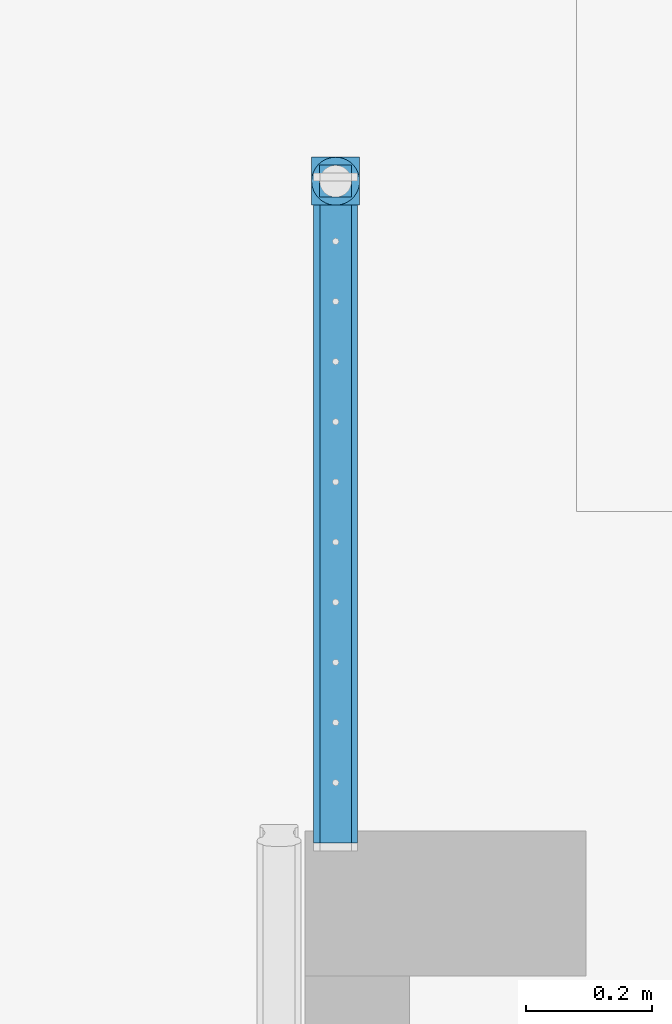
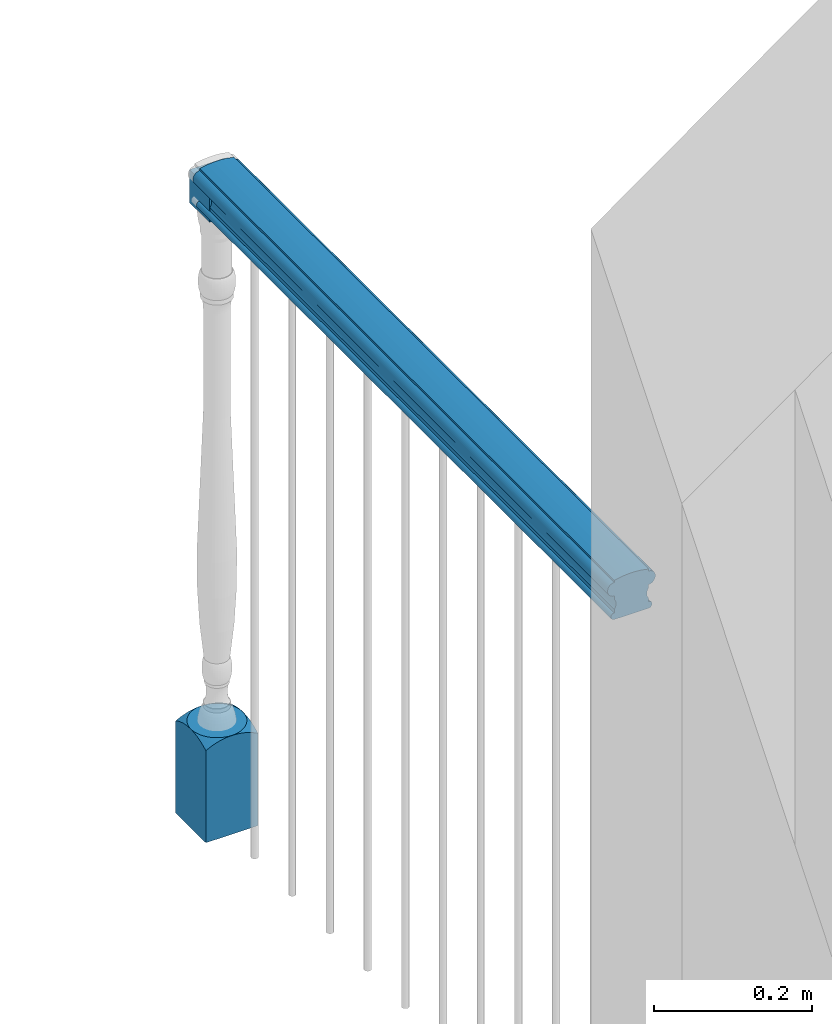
# One storey, part 18 of 77: 2 building element parts, 1 element without a shape of its own.
"""IFC2X3 building model written with IfcOpenShell, lengths in inches."""

from ifc_helpers import new_model, entity, si_unit, converted_unit, derived_unit, money_unit, direction, frame, origin_with_axes, place, context, subcontext, project, spatial, faceted_brep, material, type_object, element, aggregate, save


model = new_model("IFC2X3")

# Units and contexts
model_context = context("Model", 3, precision=0.000393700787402, world=origin_with_axes(), true_north=direction((0.0, 1.0)))
body_context = subcontext(model_context, "Body", "Model", "MODEL_VIEW")
ifc_project = project(units=[converted_unit("LENGTHUNIT", "INCH", entity("IfcPositiveLengthMeasure", 0.0254), si_unit("LENGTHUNIT", "METRE"), dimensions=[1, 0, 0, 0, 0, 0, 0]), converted_unit("AREAUNIT", "SQUARE_FOOT", entity("IfcPositiveLengthMeasure", 0.09290304), si_unit("AREAUNIT", "SQUARE_METRE"), dimensions=[2, 0, 0, 0, 0, 0, 0]), si_unit("PLANEANGLEUNIT", "RADIAN"), si_unit("SOLIDANGLEUNIT", "STERADIAN"), money_unit("USD"), converted_unit("TIMEUNIT", "Year", entity("IfcTimeMeasure", 31556926.0), si_unit("TIMEUNIT", "SECOND"), dimensions=[0, 0, 1, 0, 0, 0, 0]), si_unit("MASSUNIT", "GRAM", prefix="KILO"), si_unit("THERMODYNAMICTEMPERATUREUNIT", "DEGREE_CELSIUS"), si_unit("LUMINOUSINTENSITYUNIT", "LUMEN"), si_unit("ENERGYUNIT", "JOULE", prefix="MEGA"), derived_unit("THERMALCONDUCTANCEUNIT", [(si_unit("POWERUNIT", "WATT"), 1), (si_unit("LENGTHUNIT", "METRE"), -1), (si_unit("THERMODYNAMICTEMPERATUREUNIT", "KELVIN"), -1)]), derived_unit("SPECIFICHEATCAPACITYUNIT", [(si_unit("ENERGYUNIT", "JOULE"), 1), (si_unit("MASSUNIT", "GRAM", prefix="KILO"), -1), (si_unit("THERMODYNAMICTEMPERATUREUNIT", "KELVIN"), -1)]), derived_unit("MASSDENSITYUNIT", [(si_unit("MASSUNIT", "GRAM", prefix="KILO"), 1), (si_unit("VOLUMEUNIT", "CUBIC_METRE"), -1)])], contexts=[model_context])

# Site, building, storey
site_placement = place(None, origin_with_axes())
site = spatial("IfcSite", under=ifc_project, at=site_placement, Name="Site", CompositionType="ELEMENT")
building_placement = place(site_placement, origin_with_axes())
building = spatial("IfcBuilding", under=site, at=building_placement, Name="Building", CompositionType="ELEMENT")
storey_placement = place(building_placement, frame((0.0, 0.0, 127.952755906), z_axis=(0.0, 0.0, 1.0), x_axis=(1.0, 0.0, 0.0)))
storey = spatial("IfcBuildingStorey", under=building, at=storey_placement, Name="Second Floor", CompositionType="ELEMENT", Elevation=127.953)

# Railing, building element parts
railing_type = type_object("IfcRailingType", Name="Railing Type", PredefinedType="NOTDEFINED")
railing_placement = place(storey_placement, frame((726.989643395, 142.006727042, 0.0), z_axis=(0.0, 0.0, 1.0), x_axis=(-1.0, 0.0, 0.0)))
railing = element("IfcRailing", 1, at=railing_placement, inside=storey, type_object=railing_type, Name="RAILING - 001", PredefinedType="NOTDEFINED")
ifc_material = material(Name="Wood - Structural")
building_element_part_1_placement = place(railing_placement, origin_with_axes())
building_element_part_1 = element("IfcBuildingElementPart", 2, at=building_element_part_1_placement, material=ifc_material, Name="Wood - Structural", context=body_context, shape_type="Brep", body=[
    faceted_brep([(-0.470433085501, 1.49807085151, 5.59807625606), (-0.472538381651, 1.5, 5.59807625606), (-0.709854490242, 1.5, 5.72121779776), (-0.73188737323, 1.47374223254, 5.74751952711), (-0.608147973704, 1.3603559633, 5.74751952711), (-0.468503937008, 1.49596555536, 5.59807625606), (-0.468503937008, 1.5, 5.59807625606), (-3.46446949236, 1.5, 5.59807625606), (-3.22715338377, 1.5, 5.72121779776), (-3.170900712, 1.5, 5.74751952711), (-3.01881524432, 1.5, 5.80655808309), (-2.83452934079, 1.5, 5.86969880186), (-2.71553065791, 1.5, 5.90473755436), (-2.66796542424, 1.5, 5.91618175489), (-2.51445928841, 1.5, 5.94679121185), (-2.37042772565, 1.5, 5.96935903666), (-2.23299440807, 1.5, 5.98485858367), (-2.0997369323, 1.5, 5.9939217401), (-1.96850393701, 1.5, 5.99690446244), (-1.83727094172, 1.5, 5.9939217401), (-1.70401346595, 1.5, 5.98485858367), (-1.56658014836, 1.5, 5.96935903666), (-1.42254858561, 1.5, 5.94679121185), (-1.26904244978, 1.5, 5.91618175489), (-1.22147721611, 1.5, 5.90473755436), (-1.10247853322, 1.5, 5.86969880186), (-0.918192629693, 1.5, 5.80655808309), (-0.766107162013, 1.5, 5.74751952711), (-0.468503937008, 1.5, 0.0), (-3.46850393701, 1.5, 0.0), (-3.46850393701, 1.5, 5.59807625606), (-0.782649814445, 1.18585412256, 5.90473755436), (-0.890516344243, 1.28469558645, 5.90473755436), (-0.494761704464, 1.23661656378, 5.74751952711), (-0.468503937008, 1.25864944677, 5.72121779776), (-0.468503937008, 1.20239677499, 5.74751952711), (-0.468503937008, 1.05031130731, 5.80655808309), (-0.468503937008, 0.866025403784, 5.86969880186), (-0.468503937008, 0.747026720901, 5.90473755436), (-0.468503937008, 0.699461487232, 5.91618175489), (-0.468503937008, 0.545955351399, 5.94679121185), (-0.468503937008, 0.401923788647, 5.96935903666), (-0.468503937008, 0.264490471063, 5.98485858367), (-0.468503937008, 0.131232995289, 5.9939217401), (-0.468503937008, 0.0, 5.99690446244), (-0.468503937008, -0.131232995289, 5.9939217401), (-0.468503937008, -0.264490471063, 5.98485858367), (-0.468503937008, -0.401923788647, 5.96935903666), (-0.468503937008, -0.545955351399, 5.94679121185), (-0.468503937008, -0.699461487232, 5.91618175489), (-0.468503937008, -0.747026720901, 5.90473755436), (-0.468503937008, -0.866025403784, 5.86969880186), (-0.468503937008, -1.05031130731, 5.80655808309), (-0.468503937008, -1.20239677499, 5.74751952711), (-0.468503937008, -1.25864944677, 5.72121779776), (-0.468503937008, -1.49596555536, 5.59807625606), (-0.468503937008, -1.5, 5.59807625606), (-0.468503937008, -1.5, 0.0), (-3.46657478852, 1.49807085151, 5.59807625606), (-3.32885990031, 1.3603559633, 5.74751952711), (-3.20512050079, 1.47374223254, 5.74751952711), (-2.93042086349, 1.3737597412, 5.90473755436), (-3.04649152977, 1.28469558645, 5.90473755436), (-2.80702942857, 1.45236875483, 5.90473755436), (-2.59991820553, 1.35407226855, 6.0000000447), (-2.71553065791, 1.29388823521, 6.0000000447), (-2.47950030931, 1.40395099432, 6.0000000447), (-2.35519342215, 1.44314480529, 6.0000000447), (-2.22794359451, 1.4713554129, 6.0000000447), (-2.09871927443, 1.48836811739, 6.0000000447), (-1.96850393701, 1.4940534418, 6.0000000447), (-1.83828859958, 1.48836811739, 6.0000000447), (-1.7090642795, 1.4713554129, 6.0000000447), (-1.58181445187, 1.44314480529, 6.0000000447), (-1.45750756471, 1.40395099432, 6.0000000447), (-1.33708966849, 1.35407226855, 6.0000000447), (-1.12997844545, 1.45236875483, 5.90473755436), (-1.22147721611, 1.29388823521, 6.0000000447), (-1.00658701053, 1.3737597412, 5.90473755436), (-3.46850393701, -1.5, 0.0), (-3.46850393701, -1.49596555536, 5.59807625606), (-3.46850393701, -1.25864944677, 5.72121779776), (-3.46850393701, -1.20239677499, 5.74751952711), (-3.46850393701, -1.05031130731, 5.80655808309), (-3.46850393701, -0.866025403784, 5.86969880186), (-3.46850393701, -0.747026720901, 5.90473755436), (-3.46850393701, -0.699461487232, 5.91618175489), (-3.46850393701, -0.545955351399, 5.94679121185), (-3.46850393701, -0.401923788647, 5.96935903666), (-3.46850393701, -0.264490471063, 5.98485858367), (-3.46850393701, -0.131232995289, 5.9939217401), (-3.46850393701, 0.0, 5.99690446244), (-3.46850393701, 0.131232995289, 5.9939217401), (-3.46850393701, 0.264490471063, 5.98485858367), (-3.46850393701, 0.401923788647, 5.96935903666), (-3.46850393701, 0.545955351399, 5.94679121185), (-3.46850393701, 0.699461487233, 5.91618175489), (-3.46850393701, 0.747026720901, 5.90473755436), (-3.46850393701, 0.866025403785, 5.86969880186), (-3.46850393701, 1.05031130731, 5.80655808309), (-3.46850393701, 1.20239677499, 5.74751952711), (-3.46850393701, 1.25864944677, 5.72121779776), (-3.46850393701, 1.49596555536, 5.59807625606), (-3.46850393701, -1.5, 5.59807625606), (-0.683808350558, 1.07798759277, 5.90473755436), (-1.00814489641, 1.14451133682, 6.0000000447), (-0.912048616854, 1.05645532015, 6.0000000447), (-0.594744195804, 0.96191692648, 5.90473755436), (-0.51613518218, 0.838525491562, 5.90473755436), (-0.614431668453, 0.631414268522, 6.0000000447), (-0.674615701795, 0.747026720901, 6.0000000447), (-0.564552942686, 0.510996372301, 6.0000000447), (-0.525359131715, 0.386689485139, 6.0000000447), (-0.497148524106, 0.259439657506, 6.0000000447), (-0.480135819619, 0.130215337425, 6.0000000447), (-0.474450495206, 0.0, 6.0000000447), (-0.480135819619, -0.130215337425, 6.0000000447), (-0.497148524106, -0.259439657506, 6.0000000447), (-0.525359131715, -0.386689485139, 6.0000000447), (-0.564552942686, -0.510996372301, 6.0000000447), (-0.614431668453, -0.631414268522, 6.0000000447), (-0.51613518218, -0.838525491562, 5.90473755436), (-0.674615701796, -0.747026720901, 6.0000000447), (-0.594744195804, -0.96191692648, 5.90473755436), (-0.494761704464, -1.23661656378, 5.74751952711), (-0.683808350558, -1.07798759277, 5.90473755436), (-0.470433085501, -1.49807085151, 5.59807625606), (-0.608147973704, -1.3603559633, 5.74751952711), (-0.472538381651, -1.5, 5.59807625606), (-0.709854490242, -1.5, 5.72121779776), (-0.766107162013, -1.5, 5.74751952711), (-0.918192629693, -1.5, 5.80655808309), (-1.10247853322, -1.5, 5.86969880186), (-1.22147721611, -1.5, 5.90473755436), (-1.26904244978, -1.5, 5.91618175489), (-1.42254858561, -1.5, 5.94679121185), (-1.56658014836, -1.5, 5.96935903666), (-1.70401346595, -1.5, 5.98485858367), (-1.83727094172, -1.5, 5.9939217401), (-1.96850393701, -1.5, 5.99690446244), (-2.0997369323, -1.5, 5.9939217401), (-2.23299440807, -1.5, 5.98485858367), (-2.37042772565, -1.5, 5.96935903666), (-2.51445928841, -1.5, 5.94679121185), (-2.66796542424, -1.5, 5.91618175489), (-2.71553065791, -1.5, 5.90473755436), (-2.83452934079, -1.5, 5.86969880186), (-3.01881524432, -1.5, 5.80655808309), (-3.170900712, -1.5, 5.74751952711), (-3.22715338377, -1.5, 5.72121779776), (-3.46446949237, -1.5, 5.59807625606), (-3.44224616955, 1.23661656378, 5.74751952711), (-3.15435805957, 1.18585412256, 5.90473755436), (-2.92886297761, 1.14451133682, 6.0000000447), (-2.82545778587, 1.22385693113, 6.0000000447), (-3.02495925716, 1.05645532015, 6.0000000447), (-3.11301527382, 0.9603590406, 6.0000000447), (-3.19236086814, 0.856953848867, 6.0000000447), (-3.26239217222, 0.747026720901, 6.0000000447), (-3.32257620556, 0.631414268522, 6.0000000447), (-3.37245493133, 0.510996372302, 6.0000000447), (-3.4116487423, 0.386689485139, 6.0000000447), (-3.43985934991, 0.259439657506, 6.0000000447), (-3.4568720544, 0.130215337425, 6.0000000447), (-3.46255737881, 0.0, 6.0000000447), (-3.4568720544, -0.130215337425, 6.0000000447), (-3.43985934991, -0.259439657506, 6.0000000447), (-3.4116487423, -0.386689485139, 6.0000000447), (-3.37245493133, -0.510996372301, 6.0000000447), (-3.32257620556, -0.631414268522, 6.0000000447), (-3.26239217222, -0.747026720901, 6.0000000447), (-3.19236086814, -0.856953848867, 6.0000000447), (-3.11301527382, -0.9603590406, 6.0000000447), (-3.02495925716, -1.05645532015, 6.0000000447), (-2.92886297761, -1.14451133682, 6.0000000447), (-2.82545778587, -1.22385693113, 6.0000000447), (-2.71553065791, -1.29388823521, 6.0000000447), (-2.59991820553, -1.35407226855, 6.0000000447), (-2.47950030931, -1.40395099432, 6.0000000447), (-2.35519342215, -1.44314480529, 6.0000000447), (-2.22794359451, -1.4713554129, 6.0000000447), (-2.09871927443, -1.48836811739, 6.0000000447), (-1.96850393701, -1.4940534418, 6.0000000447), (-1.83828859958, -1.48836811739, 6.0000000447), (-1.7090642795, -1.4713554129, 6.0000000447), (-1.58181445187, -1.44314480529, 6.0000000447), (-1.45750756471, -1.40395099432, 6.0000000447), (-1.33708966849, -1.35407226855, 6.0000000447), (-1.22147721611, -1.29388823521, 6.0000000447), (-1.11155008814, -1.22385693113, 6.0000000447), (-1.00814489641, -1.14451133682, 6.0000000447), (-0.912048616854, -1.05645532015, 6.0000000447), (-0.823992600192, -0.9603590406, 6.0000000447), (-0.744647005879, -0.856953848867, 6.0000000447), (-0.744647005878, 0.856953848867, 6.0000000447), (-0.823992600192, 0.9603590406, 6.0000000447), (-1.11155008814, 1.22385693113, 6.0000000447), (-3.46657478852, -1.49807085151, 5.59807625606), (-3.32885990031, -1.3603559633, 5.74751952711), (-3.44224616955, -1.23661656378, 5.74751952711), (-3.34226367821, -0.96191692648, 5.90473755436), (-3.25319952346, -1.07798759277, 5.90473755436), (-3.42087269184, -0.838525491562, 5.90473755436), (-3.42087269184, 0.838525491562, 5.90473755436), (-3.34226367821, 0.96191692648, 5.90473755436), (-3.25319952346, 1.07798759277, 5.90473755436), (-0.782649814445, -1.18585412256, 5.90473755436), (-0.73188737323, -1.47374223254, 5.74751952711), (-1.00658701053, -1.3737597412, 5.90473755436), (-0.890516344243, -1.28469558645, 5.90473755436), (-1.12997844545, -1.45236875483, 5.90473755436), (-2.80702942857, -1.45236875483, 5.90473755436), (-2.93042086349, -1.3737597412, 5.90473755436), (-3.20512050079, -1.47374223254, 5.74751952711), (-3.04649152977, -1.28469558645, 5.90473755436), (-3.15435805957, -1.18585412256, 5.90473755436)], [[[0, 1, 2, 3, 4]], [[1, 0, 5, 6]], [[7, 8, 9, 10, 11, 12, 13, 14, 15, 16, 17, 18, 19, 20, 21, 22, 23, 24, 25, 26, 27, 2, 1, 6, 28, 29, 30]], [[3, 2, 27]], [[31, 4, 3, 32]], [[5, 0, 4, 33, 34]], [[5, 34, 35, 36, 37, 38, 39, 40, 41, 42, 43, 44, 45, 46, 47, 48, 49, 50, 51, 52, 53, 54, 55, 56, 57, 28, 6]], [[7, 58, 59, 60, 8]], [[60, 9, 8]], [[61, 10, 9, 60, 62]], [[63, 11, 10, 61]], [[63, 12, 11]], [[64, 13, 12, 63, 65]], [[66, 14, 13, 64]], [[67, 15, 14, 66]], [[68, 16, 15, 67]], [[69, 17, 16, 68]], [[70, 18, 17, 69]], [[71, 19, 18, 70]], [[72, 20, 19, 71]], [[73, 21, 20, 72]], [[74, 22, 21, 73]], [[75, 23, 22, 74]], [[76, 24, 23, 75, 77]], [[76, 25, 24]], [[78, 26, 25, 76]], [[3, 27, 26, 78, 32]], [[79, 29, 28, 57]], [[80, 81, 82, 83, 84, 85, 86, 87, 88, 89, 90, 91, 92, 93, 94, 95, 96, 97, 98, 99, 100, 101, 102, 30, 29, 79, 103]], [[58, 7, 30, 102]], [[104, 33, 4, 31]], [[32, 105, 106, 31]], [[33, 35, 34]], [[107, 36, 35, 33, 104]], [[108, 37, 36, 107]], [[108, 38, 37]], [[109, 39, 38, 108, 110]], [[111, 40, 39, 109]], [[112, 41, 40, 111]], [[113, 42, 41, 112]], [[114, 43, 42, 113]], [[115, 44, 43, 114]], [[116, 45, 44, 115]], [[117, 46, 45, 116]], [[118, 47, 46, 117]], [[119, 48, 47, 118]], [[120, 49, 48, 119]], [[121, 50, 49, 120, 122]], [[121, 51, 50]], [[123, 52, 51, 121]], [[124, 53, 52, 123, 125]], [[124, 54, 53]], [[126, 55, 54, 124, 127]], [[55, 126, 128, 56]], [[128, 129, 130, 131, 132, 133, 134, 135, 136, 137, 138, 139, 140, 141, 142, 143, 144, 145, 146, 147, 148, 149, 150, 103, 79, 57, 56]], [[58, 102, 101, 151, 59]], [[62, 60, 59, 152]], [[62, 153, 154, 61]], [[61, 154, 65, 63]], [[72, 71, 70, 69, 68, 67, 66, 64, 65, 154, 153, 155, 156, 157, 158, 159, 160, 161, 162, 163, 164, 165, 166, 167, 168, 169, 170, 171, 172, 173, 174, 175, 176, 177, 178, 179, 180, 181, 182, 183, 184, 185, 186, 187, 188, 189, 190, 191, 192, 193, 122, 120, 119, 118, 117, 116, 115, 114, 113, 112, 111, 109, 110, 194, 195, 106, 105, 196, 77, 75, 74, 73]], [[76, 77, 196, 78]], [[78, 196, 105, 32]], [[80, 197, 198, 199, 81]], [[199, 82, 81]], [[200, 83, 82, 199, 201]], [[202, 84, 83, 200]], [[202, 85, 84]], [[169, 86, 85, 202, 170]], [[168, 87, 86, 169]], [[167, 88, 87, 168]], [[166, 89, 88, 167]], [[165, 90, 89, 166]], [[164, 91, 90, 165]], [[163, 92, 91, 164]], [[162, 93, 92, 163]], [[161, 94, 93, 162]], [[160, 95, 94, 161]], [[159, 96, 95, 160]], [[203, 97, 96, 159, 158]], [[203, 98, 97]], [[204, 99, 98, 203]], [[151, 100, 99, 204, 205]], [[151, 101, 100]], [[197, 80, 103, 150]], [[31, 106, 195, 104]], [[104, 195, 194, 107]], [[107, 194, 110, 108]], [[121, 122, 193, 123]], [[123, 193, 192, 125]], [[206, 127, 124, 125]], [[128, 126, 127, 207, 129]], [[207, 130, 129]], [[208, 131, 130, 207, 209]], [[210, 132, 131, 208]], [[210, 133, 132]], [[187, 134, 133, 210, 188]], [[186, 135, 134, 187]], [[185, 136, 135, 186]], [[184, 137, 136, 185]], [[183, 138, 137, 184]], [[182, 139, 138, 183]], [[181, 140, 139, 182]], [[180, 141, 140, 181]], [[179, 142, 141, 180]], [[178, 143, 142, 179]], [[177, 144, 143, 178]], [[211, 145, 144, 177, 176]], [[211, 146, 145]], [[212, 147, 146, 211]], [[213, 148, 147, 212, 214]], [[213, 149, 148]], [[197, 150, 149, 213, 198]], [[152, 59, 151, 205]], [[152, 155, 153, 62]], [[205, 156, 155, 152]], [[204, 157, 156, 205]], [[203, 158, 157, 204]], [[200, 171, 170, 202]], [[201, 172, 171, 200]], [[215, 173, 172, 201]], [[214, 174, 173, 215]], [[212, 175, 174, 214]], [[211, 176, 175, 212]], [[208, 189, 188, 210]], [[209, 190, 189, 208]], [[206, 191, 190, 209]], [[125, 192, 191, 206]], [[201, 199, 198, 215]], [[209, 207, 127, 206]], [[215, 198, 213, 214]]]),
    faceted_brep([(-2.96850393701, -1.0, 39.2125984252), (-2.96850393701, -1.0, 37.2125984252), (-0.968503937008, -1.0, 37.2125984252), (-0.968503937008, -1.0, 39.2125984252), (-2.96850393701, 1.0, 39.2125984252), (-2.96850393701, 1.0, 37.2125984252), (-0.968503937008, 1.0, 37.2125984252), (-0.968503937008, 1.0, 39.2125984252)], [[[0, 1, 2, 3]], [[4, 5, 1, 0]], [[1, 5, 6, 2]], [[3, 2, 6, 7]], [[0, 3, 7, 4]], [[7, 6, 5, 4]]]),
])
building_element_part_2_placement = place(railing_placement, origin_with_axes())
building_element_part_2 = element("IfcBuildingElementPart", 3, at=building_element_part_2_placement, material=ifc_material, Name="Wood - Structural", context=body_context, shape_type="Brep", body=[
    faceted_brep([(-0.97830768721, 0.0, 39.8773496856), (-0.97830768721, 0.0, 39.7546993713), (-0.978307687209, 41.2648747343, 39.7546993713), (-0.978307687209, 41.2648747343, 39.8773496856), (-1.03685591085, 0.0, 39.8915961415), (-1.40666376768, 0.0, 39.9608753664), (-1.78074756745, 0.0, 39.9956472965), (-2.15626030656, 0.0, 39.9956472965), (-2.53034410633, 0.0, 39.9608753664), (-2.90015196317, 0.0, 39.8915961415), (-2.95870018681, 0.0, 39.8773496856), (-2.95870018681, 0.0, 39.7546993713), (-2.99223804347, 0.0, 39.753143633), (-3.05829472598, 0.0, 39.7407686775), (-3.12132527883, 0.0, 39.7163947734), (-3.17941455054, 0.0, 39.6807625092), (-3.230797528, 0.0, 39.6349545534), (-3.27391296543, 0.0, 39.5803627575), (-3.30745082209, 0.0, 39.5186458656), (-3.33039206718, 0.0, 39.4516791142), (-3.34203964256, 0.0, 39.3814972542), (-3.34203964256, 0.0, 39.3102327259), (-3.33039206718, 0.0, 39.2400508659), (-3.30745082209, 0.0, 39.1730841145), (-3.27391296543, 0.0, 39.1113672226), (-3.230797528, 0.0, 39.0567754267), (-3.17941455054, 0.0, 39.0109674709), (-3.12132527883, 0.0, 38.9753352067), (-3.05829472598, 0.0, 38.9509613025), (-2.99223804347, 0.0, 38.9385863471), (-2.95870018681, 0.0, 38.9370306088), (-2.95870018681, 0.0, 38.7326134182), (-2.93612331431, 0.0, 38.7011676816), (-2.89633013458, 0.0, 38.6279396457), (-2.86910999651, 0.0, 38.5484825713), (-2.85528997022, 0.0, 38.4652107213), (-2.85528997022, 0.0, 38.3806542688), (-2.86910999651, 0.0, 38.2973824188), (-2.89633013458, 0.0, 38.2179253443), (-2.93612331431, 0.0, 38.1446973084), (-2.95870018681, 0.0, 38.1132515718), (-2.95870018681, 0.0, 37.9088343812), (-2.97546911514, 0.0, 37.9080565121), (-3.0084974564, 0.0, 37.9018690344), (-3.04001273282, 0.0, 37.8896820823), (-3.06905736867, 0.0, 37.8718659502), (-3.0947488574, 0.0, 37.8489619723), (-3.11630657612, 0.0, 37.8216660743), (-3.13307550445, 0.0, 37.7908076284), (-3.14454612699, 0.0, 37.7573242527), (-3.15036991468, 0.0, 37.7222333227), (-3.15036991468, 0.0, 37.6866010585), (-3.14454612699, 0.0, 37.6515101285), (-3.13307550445, 0.0, 37.6180267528), (-3.11630657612, 0.0, 37.5871683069), (-3.0947488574, 0.0, 37.5598724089), (-3.06905736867, 0.0, 37.536968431), (-3.04001273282, 0.0, 37.519152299), (-3.0084974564, 0.0, 37.5069653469), (-2.97546911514, 0.0, 37.5007778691), (-2.95870018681, 0.0, 37.5), (-0.97830768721, 0.0, 37.5), (-0.96153875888, 0.0, 37.5007778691), (-0.928510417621, 0.0, 37.5069653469), (-0.896995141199, 0.0, 37.519152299), (-0.867950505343, 0.0, 37.536968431), (-0.842259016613, 0.0, 37.5598724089), (-0.820701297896, 0.0, 37.5871683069), (-0.803932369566, 0.0, 37.6180267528), (-0.792461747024, 0.0, 37.6515101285), (-0.786637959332, 0.0, 37.6866010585), (-0.786637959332, 0.0, 37.7222333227), (-0.792461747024, 0.0, 37.7573242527), (-0.803932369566, 0.0, 37.7908076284), (-0.820701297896, 0.0, 37.8216660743), (-0.842259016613, 0.0, 37.8489619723), (-0.867950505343, 0.0, 37.8718659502), (-0.896995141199, 0.0, 37.8896820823), (-0.928510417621, 0.0, 37.9018690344), (-0.96153875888, 0.0, 37.9080565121), (-0.97830768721, 0.0, 37.9088343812), (-0.97830768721, 0.0, 38.1132515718), (-1.00088455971, 0.0, 38.1446973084), (-1.04067773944, 0.0, 38.2179253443), (-1.06789787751, 0.0, 38.2973824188), (-1.08171790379, 0.0, 38.3806542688), (-1.08171790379, 0.0, 38.4652107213), (-1.06789787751, 0.0, 38.5484825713), (-1.04067773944, 0.0, 38.6279396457), (-1.00088455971, 0.0, 38.7011676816), (-0.97830768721, 0.0, 38.7326134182), (-0.97830768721, 0.0, 38.9370306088), (-0.944769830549, 0.0, 38.9385863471), (-0.878713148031, 0.0, 38.9509613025), (-0.815682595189, 0.0, 38.9753352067), (-0.757593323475, 0.0, 39.0109674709), (-0.706210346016, 0.0, 39.0567754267), (-0.663094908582, 0.0, 39.1113672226), (-0.629557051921, 0.0, 39.1730841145), (-0.606615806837, 0.0, 39.2400508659), (-0.594968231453, 0.0, 39.3102327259), (-0.594968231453, 0.0, 39.3814972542), (-0.606615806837, 0.0, 39.4516791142), (-0.629557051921, 0.0, 39.5186458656), (-0.663094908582, 0.0, 39.5803627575), (-0.706210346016, 0.0, 39.6349545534), (-0.757593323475, 0.0, 39.6807625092), (-0.815682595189, 0.0, 39.7163947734), (-0.878713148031, 0.0, 39.7407686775), (-0.944769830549, 0.0, 39.753143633), (-0.944769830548, 41.2648747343, 39.753143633), (-0.87871314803, 41.2648747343, 39.7407686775), (-0.815682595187, 41.2648747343, 39.7163947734), (-0.757593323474, 41.2648747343, 39.6807625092), (-0.706210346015, 41.2648747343, 39.6349545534), (-0.663094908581, 41.2648747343, 39.5803627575), (-0.62955705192, 41.2648747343, 39.5186458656), (-0.606615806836, 41.2648747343, 39.4516791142), (-0.594968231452, 41.2648747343, 39.3814972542), (-0.594968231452, 41.2648747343, 39.3102327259), (-0.606615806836, 41.2648747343, 39.2400508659), (-0.62955705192, 41.2648747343, 39.1730841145), (-0.663094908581, 41.2648747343, 39.1113672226), (-0.706210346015, 41.2648747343, 39.0567754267), (-0.757593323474, 41.2648747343, 39.0109674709), (-0.815682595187, 41.2648747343, 38.9753352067), (-0.87871314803, 41.2648747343, 38.9509613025), (-0.944769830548, 41.2648747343, 38.9385863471), (-0.978307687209, 41.2648747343, 38.9370306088), (-0.978307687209, 41.2648747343, 38.7326134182), (-1.00088455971, 41.2648747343, 38.7011676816), (-1.04067773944, 41.2648747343, 38.6279396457), (-1.06789787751, 41.2648747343, 38.5484825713), (-1.08171790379, 41.2648747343, 38.4652107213), (-1.08171790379, 41.2648747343, 38.3806542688), (-1.06789787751, 41.2648747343, 38.2973824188), (-1.04067773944, 41.2648747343, 38.2179253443), (-1.00088455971, 41.2648747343, 38.1446973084), (-0.978307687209, 41.2648747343, 38.1132515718), (-0.978307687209, 41.2648747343, 37.9088343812), (-0.961538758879, 41.2648747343, 37.9080565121), (-0.92851041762, 41.2648747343, 37.9018690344), (-0.896995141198, 41.2648747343, 37.8896820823), (-0.867950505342, 41.2648747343, 37.8718659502), (-0.842259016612, 41.2648747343, 37.8489619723), (-0.820701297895, 41.2648747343, 37.8216660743), (-0.803932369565, 41.2648747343, 37.7908076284), (-0.792461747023, 41.2648747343, 37.7573242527), (-0.786637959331, 41.2648747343, 37.7222333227), (-0.786637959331, 41.2648747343, 37.6866010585), (-0.792461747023, 41.2648747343, 37.6515101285), (-0.803932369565, 41.2648747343, 37.6180267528), (-0.820701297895, 41.2648747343, 37.5871683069), (-0.842259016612, 41.2648747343, 37.5598724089), (-0.867950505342, 41.2648747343, 37.536968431), (-0.896995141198, 41.2648747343, 37.519152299), (-0.92851041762, 41.2648747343, 37.5069653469), (-0.961538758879, 41.2648747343, 37.5007778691), (-0.978307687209, 41.2648747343, 37.5), (-2.9587001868, 41.2648747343, 37.5), (-2.97546911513, 41.2648747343, 37.5007778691), (-3.00849745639, 41.2648747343, 37.5069653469), (-3.04001273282, 41.2648747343, 37.519152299), (-3.06905736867, 41.2648747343, 37.536968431), (-3.0947488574, 41.2648747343, 37.5598724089), (-3.11630657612, 41.2648747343, 37.5871683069), (-3.13307550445, 41.2648747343, 37.6180267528), (-3.14454612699, 41.2648747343, 37.6515101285), (-3.15036991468, 41.2648747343, 37.6866010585), (-3.15036991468, 41.2648747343, 37.7222333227), (-3.14454612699, 41.2648747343, 37.7573242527), (-3.13307550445, 41.2648747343, 37.7908076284), (-3.11630657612, 41.2648747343, 37.8216660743), (-3.0947488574, 41.2648747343, 37.8489619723), (-3.06905736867, 41.2648747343, 37.8718659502), (-3.04001273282, 41.2648747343, 37.8896820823), (-3.00849745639, 41.2648747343, 37.9018690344), (-2.97546911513, 41.2648747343, 37.9080565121), (-2.9587001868, 41.2648747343, 37.9088343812), (-2.9587001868, 41.2648747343, 38.1132515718), (-2.93612331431, 41.2648747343, 38.1446973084), (-2.89633013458, 41.2648747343, 38.2179253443), (-2.86910999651, 41.2648747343, 38.2973824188), (-2.85528997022, 41.2648747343, 38.3806542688), (-2.85528997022, 41.2648747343, 38.4652107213), (-2.86910999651, 41.2648747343, 38.5484825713), (-2.89633013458, 41.2648747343, 38.6279396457), (-2.93612331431, 41.2648747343, 38.7011676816), (-2.9587001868, 41.2648747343, 38.7326134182), (-2.9587001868, 41.2648747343, 38.9370306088), (-2.99223804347, 41.2648747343, 38.9385863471), (-3.05829472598, 41.2648747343, 38.9509613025), (-3.12132527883, 41.2648747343, 38.9753352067), (-3.17941455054, 41.2648747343, 39.0109674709), (-3.230797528, 41.2648747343, 39.0567754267), (-3.27391296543, 41.2648747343, 39.1113672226), (-3.30745082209, 41.2648747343, 39.1730841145), (-3.33039206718, 41.2648747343, 39.2400508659), (-3.34203964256, 41.2648747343, 39.3102327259), (-3.34203964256, 41.2648747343, 39.3814972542), (-3.33039206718, 41.2648747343, 39.4516791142), (-3.30745082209, 41.2648747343, 39.5186458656), (-3.27391296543, 41.2648747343, 39.5803627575), (-3.230797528, 41.2648747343, 39.6349545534), (-3.17941455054, 41.2648747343, 39.6807625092), (-3.12132527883, 41.2648747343, 39.7163947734), (-3.05829472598, 41.2648747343, 39.7407686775), (-2.99223804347, 41.2648747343, 39.753143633), (-2.9587001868, 41.2648747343, 39.7546993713), (-2.9587001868, 41.2648747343, 39.8773496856), (-2.90015196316, 41.2648747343, 39.8915961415), (-2.53034410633, 41.2648747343, 39.9608753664), (-2.15626030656, 41.2648747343, 39.9956472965), (-1.78074756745, 41.2648747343, 39.9956472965), (-1.40666376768, 41.2648747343, 39.9608753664), (-1.03685591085, 41.2648747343, 39.8915961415)], [[[0, 1, 2, 3]], [[0, 4, 5, 6, 7, 8, 9, 10, 11, 12, 13, 14, 15, 16, 17, 18, 19, 20, 21, 22, 23, 24, 25, 26, 27, 28, 29, 30, 31, 32, 33, 34, 35, 36, 37, 38, 39, 40, 41, 42, 43, 44, 45, 46, 47, 48, 49, 50, 51, 52, 53, 54, 55, 56, 57, 58, 59, 60, 61, 62, 63, 64, 65, 66, 67, 68, 69, 70, 71, 72, 73, 74, 75, 76, 77, 78, 79, 80, 81, 82, 83, 84, 85, 86, 87, 88, 89, 90, 91, 92, 93, 94, 95, 96, 97, 98, 99, 100, 101, 102, 103, 104, 105, 106, 107, 108, 109, 1]], [[1, 109, 110, 2]], [[3, 2, 110, 111, 112, 113, 114, 115, 116, 117, 118, 119, 120, 121, 122, 123, 124, 125, 126, 127, 128, 129, 130, 131, 132, 133, 134, 135, 136, 137, 138, 139, 140, 141, 142, 143, 144, 145, 146, 147, 148, 149, 150, 151, 152, 153, 154, 155, 156, 157, 158, 159, 160, 161, 162, 163, 164, 165, 166, 167, 168, 169, 170, 171, 172, 173, 174, 175, 176, 177, 178, 179, 180, 181, 182, 183, 184, 185, 186, 187, 188, 189, 190, 191, 192, 193, 194, 195, 196, 197, 198, 199, 200, 201, 202, 203, 204, 205, 206, 207, 208, 209, 210, 211, 212, 213, 214, 215]], [[4, 0, 3, 215]], [[5, 4, 215, 214]], [[6, 5, 214, 213]], [[7, 6, 213, 212]], [[8, 7, 212, 211]], [[9, 8, 211, 210]], [[10, 9, 210, 209]], [[11, 10, 209, 208]], [[12, 11, 208, 207]], [[13, 12, 207, 206]], [[14, 13, 206, 205]], [[15, 14, 205, 204]], [[16, 15, 204, 203]], [[17, 16, 203, 202]], [[18, 17, 202, 201]], [[19, 18, 201, 200]], [[20, 19, 200, 199]], [[21, 20, 199, 198]], [[22, 21, 198, 197]], [[23, 22, 197, 196]], [[24, 23, 196, 195]], [[25, 24, 195, 194]], [[26, 25, 194, 193]], [[27, 26, 193, 192]], [[28, 27, 192, 191]], [[29, 28, 191, 190]], [[30, 29, 190, 189]], [[31, 30, 189, 188]], [[32, 31, 188, 187]], [[33, 32, 187, 186]], [[34, 33, 186, 185]], [[35, 34, 185, 184]], [[36, 35, 184, 183]], [[37, 36, 183, 182]], [[38, 37, 182, 181]], [[39, 38, 181, 180]], [[40, 39, 180, 179]], [[41, 40, 179, 178]], [[42, 41, 178, 177]], [[43, 42, 177, 176]], [[44, 43, 176, 175]], [[45, 44, 175, 174]], [[46, 45, 174, 173]], [[47, 46, 173, 172]], [[48, 47, 172, 171]], [[49, 48, 171, 170]], [[50, 49, 170, 169]], [[51, 50, 169, 168]], [[52, 51, 168, 167]], [[53, 52, 167, 166]], [[54, 53, 166, 165]], [[55, 54, 165, 164]], [[56, 55, 164, 163]], [[57, 56, 163, 162]], [[58, 57, 162, 161]], [[59, 58, 161, 160]], [[60, 59, 160, 159]], [[61, 60, 159, 158]], [[62, 61, 158, 157]], [[63, 62, 157, 156]], [[64, 63, 156, 155]], [[65, 64, 155, 154]], [[66, 65, 154, 153]], [[67, 66, 153, 152]], [[68, 67, 152, 151]], [[69, 68, 151, 150]], [[70, 69, 150, 149]], [[71, 70, 149, 148]], [[72, 71, 148, 147]], [[73, 72, 147, 146]], [[74, 73, 146, 145]], [[75, 74, 145, 144]], [[76, 75, 144, 143]], [[77, 76, 143, 142]], [[78, 77, 142, 141]], [[79, 78, 141, 140]], [[80, 79, 140, 139]], [[81, 80, 139, 138]], [[82, 81, 138, 137]], [[83, 82, 137, 136]], [[84, 83, 136, 135]], [[85, 84, 135, 134]], [[86, 85, 134, 133]], [[87, 86, 133, 132]], [[88, 87, 132, 131]], [[89, 88, 131, 130]], [[90, 89, 130, 129]], [[91, 90, 129, 128]], [[92, 91, 128, 127]], [[93, 92, 127, 126]], [[94, 93, 126, 125]], [[95, 94, 125, 124]], [[96, 95, 124, 123]], [[97, 96, 123, 122]], [[98, 97, 122, 121]], [[99, 98, 121, 120]], [[100, 99, 120, 119]], [[101, 100, 119, 118]], [[102, 101, 118, 117]], [[103, 102, 117, 116]], [[104, 103, 116, 115]], [[105, 104, 115, 114]], [[106, 105, 114, 113]], [[107, 106, 113, 112]], [[108, 107, 112, 111]], [[109, 108, 111, 110]]]),
])
aggregate(railing, [building_element_part_1, building_element_part_2])

save(model, "model.ifc")
